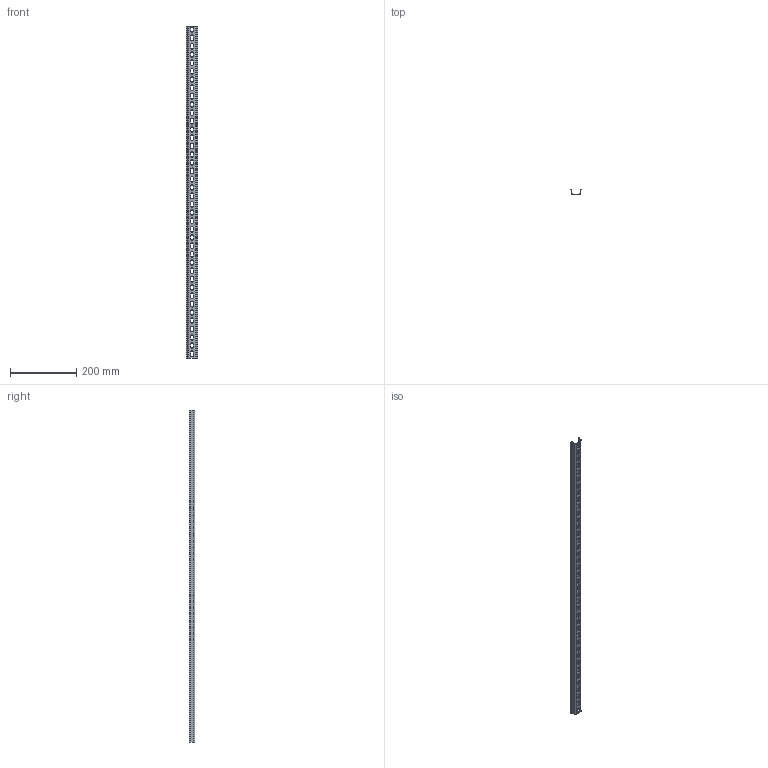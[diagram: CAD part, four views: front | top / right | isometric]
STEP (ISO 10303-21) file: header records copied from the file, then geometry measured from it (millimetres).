
FILE_DESCRIPTION (( 'STEP AP214' ), '1' );
FILE_NAME ('DIN-ðåéêà 15õ0,1 ìì 1000.STEP', '2025-10-22T11:28:53', ( '' ), ( '' ), 'SwSTEP 2.0', 'SolidWorks 2018', '' );
FILE_SCHEMA (( 'AUTOMOTIVE_DESIGN' ));
Length unit declared in the file: millimetre
Products named in the file (1): DIN-ðåéêà 15õ0,1 ìì 1000
Bounding box: 35.2 x 16 x 1000 mm (x, y, z)
Volume: 55970.8 mm3; surface area: 115774.6 mm2
Topology: 1 solids, 1 shells, 238 faces, 676 edges, 440 vertices
Faces by surface type: cylinder 128, plane 110
Entity records: 7974 total; most frequent: DIRECTION 1410, CARTESIAN_POINT 1355, ORIENTED_EDGE 1352, EDGE_CURVE 676, AXIS2_PLACEMENT_3D 495, VERTEX_POINT 440, LINE 420, VECTOR 420
